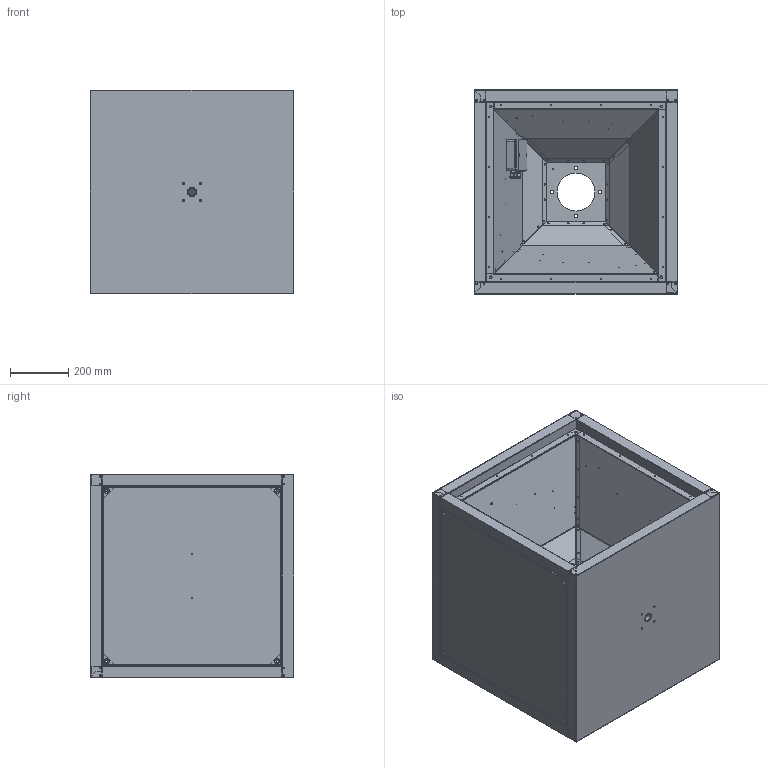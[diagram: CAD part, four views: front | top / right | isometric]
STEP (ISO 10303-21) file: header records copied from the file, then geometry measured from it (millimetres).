
FILE_DESCRIPTION (( 'STEP AP203' ), '1' );
FILE_NAME ('149331-00_MPC450ECT30_step.step', '2018-10-25T07:01:17', ( '' ), ( '' ), 'SwSTEP 2.0', 'SolidWorks 2017', '' );
FILE_SCHEMA (( 'CONFIG_CONTROL_DESIGN' ));
Length unit declared in the file: millimetre
Products named in the file (1): 149331-00_MPC450ECT30_step
Bounding box: 700 x 700.1 x 700 mm (x, y, z)
Surface area: 6857020.4 mm2 (no closed solid volume)
Topology: 0 solids, 160 shells, 608 faces, 3291 edges, 2816 vertices
Faces by surface type: plane 321, cylinder 248, cone 17, torus 16, bspline 6
Full cylindrical faces by diameter (mm): 1.5 x2, 2 x1, 3.2 x10, 4.2 x72, 4.5 x8, 7 x2, 8 x3, 9 x4, 13.5 x1, 21 x2, 24 x2, 26 x1, 279 x1, 281 x1
Entity records: 33862 total; most frequent: CARTESIAN_POINT 8483, DIRECTION 5073, ORIENTED_EDGE 3612, EDGE_CURVE 3129, VERTEX_POINT 2794, LINE 1983, VECTOR 1983, AXIS2_PLACEMENT_3D 1545
